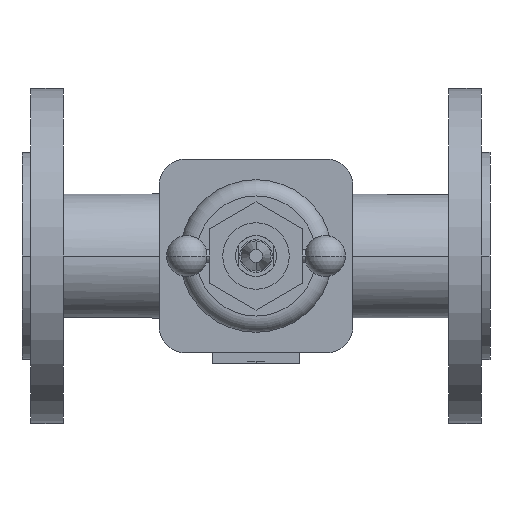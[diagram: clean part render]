
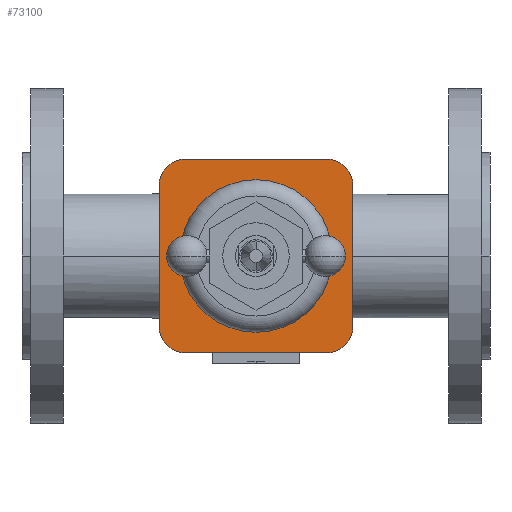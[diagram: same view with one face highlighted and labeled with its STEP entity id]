
A CAD part, front view. The second image highlights one B-rep face of the part: STEP entity #73100.
In plain terms, the highlighted planar face has unit normal (0, -1, 0).
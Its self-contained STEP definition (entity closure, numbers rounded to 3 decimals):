
#14210=CARTESIAN_POINT('',(152.5,-87.,0.));
#14220=VERTEX_POINT('',#14210);
#14250=CARTESIAN_POINT('',(115.,-87.,0.));
#14260=DIRECTION('',(0.,-1.,0.));
#14270=DIRECTION('',(-1.,0.,0.));
#14280=AXIS2_PLACEMENT_3D('',#14250,#14260,#14270);
#14290=CIRCLE('',#14280,37.5);
#14300=CARTESIAN_POINT('',(77.5,-87.,0.));
#14310=VERTEX_POINT('',#14300);
#14320=EDGE_CURVE('',#14310,#14220,#14290,.T.);
#42150=CARTESIAN_POINT('',(67.352,-87.,34.648));
#42160=VERTEX_POINT('',#42150);
#42190=CARTESIAN_POINT('',(67.352,-87.,-17.324));
#42200=DIRECTION('',(0.,0.,-1.));
#42210=VECTOR('',#42200,1.);
#42220=LINE('',#42190,#42210);
#42230=CARTESIAN_POINT('',(67.352,-87.,-34.648));
#42240=VERTEX_POINT('',#42230);
#42250=EDGE_CURVE('',#42160,#42240,#42220,.T.);
#46330=CARTESIAN_POINT('',(80.352,-87.,-47.648));
#46340=VERTEX_POINT('',#46330);
#46370=CARTESIAN_POINT('',(107.199,-87.,-47.648));
#46380=DIRECTION('',(1.,0.,0.));
#46390=VECTOR('',#46380,1.);
#46400=LINE('',#46370,#46390);
#46410=CARTESIAN_POINT('',(149.648,-87.,-47.648));
#46420=VERTEX_POINT('',#46410);
#46430=EDGE_CURVE('',#46340,#46420,#46400,.T.);
#47180=CARTESIAN_POINT('',(80.352,-87.,47.648));
#47190=VERTEX_POINT('',#47180);
#47240=CARTESIAN_POINT('',(80.352,-87.,34.648));
#47250=DIRECTION('',(0.,-1.,0.));
#47260=DIRECTION('',(-1.,0.,0.));
#47270=AXIS2_PLACEMENT_3D('',#47240,#47250,#47260);
#47280=CIRCLE('',#47270,13.);
#47290=EDGE_CURVE('',#47190,#42160,#47280,.T.);
#47550=CARTESIAN_POINT('',(149.648,-87.,-34.648));
#47560=DIRECTION('',(0.,-1.,0.));
#47570=DIRECTION('',(1.,0.,0.));
#47580=AXIS2_PLACEMENT_3D('',#47550,#47560,#47570);
#47590=CIRCLE('',#47580,13.);
#47600=CARTESIAN_POINT('',(162.648,-87.,
-34.648));
#47610=VERTEX_POINT('',#47600);
#47620=EDGE_CURVE('',#46420,#47610,#47590,.T.);
#47980=CARTESIAN_POINT('',(162.648,-87.,
34.648));
#47990=VERTEX_POINT('',#47980);
#48040=CARTESIAN_POINT('',(149.648,-87.,34.648));
#48050=DIRECTION('',(0.,-1.,0.));
#48060=DIRECTION('',(0.,0.,1.));
#48070=AXIS2_PLACEMENT_3D('',#48040,#48050,#48060);
#48080=CIRCLE('',#48070,13.);
#48090=CARTESIAN_POINT('',(149.648,-87.,47.648));
#48100=VERTEX_POINT('',#48090);
#48110=EDGE_CURVE('',#47990,#48100,#48080,.T.);
#61190=CARTESIAN_POINT('',(162.648,-87.,
17.324));
#61200=DIRECTION('',(0.,0.,1.));
#61210=VECTOR('',#61200,1.);
#61220=LINE('',#61190,#61210);
#61230=EDGE_CURVE('',#47610,#47990,#61220,.T.);
#71370=CARTESIAN_POINT('',(72.551,-87.,47.648));
#71380=DIRECTION('',(-1.,0.,0.));
#71390=VECTOR('',#71380,1.);
#71400=LINE('',#71370,#71390);
#71410=EDGE_CURVE('',#48100,#47190,#71400,.T.);
#72840=CARTESIAN_POINT('',(64.75,-87.,0.));
#72850=DIRECTION('',(0.,-1.,0.));
#72860=DIRECTION('',(-1.,0.,0.));
#72870=AXIS2_PLACEMENT_3D('',#72840,#72850,#72860);
#72880=PLANE('',#72870);
#72890=ORIENTED_EDGE('',*,*,#47290,.T.);
#72900=ORIENTED_EDGE('',*,*,#71410,.T.);
#72910=ORIENTED_EDGE('',*,*,#48110,.T.);
#72920=ORIENTED_EDGE('',*,*,#61230,.T.);
#72930=ORIENTED_EDGE('',*,*,#47620,.T.);
#72940=ORIENTED_EDGE('',*,*,#46430,.T.);
#72950=CARTESIAN_POINT('',(80.352,-87.,-34.648));
#72960=DIRECTION('',(0.,-1.,0.));
#72970=DIRECTION('',(0.,0.,-1.));
#72980=AXIS2_PLACEMENT_3D('',#72950,#72960,#72970);
#72990=CIRCLE('',#72980,13.);
#73000=EDGE_CURVE('',#42240,#46340,#72990,.T.);
#73010=ORIENTED_EDGE('',*,*,#73000,.T.);
#73020=ORIENTED_EDGE('',*,*,#42250,.T.);
#73030=EDGE_LOOP('',(#73020,#73010,#72940,#72930,#72920,#72910,#72900,
#72890));
#73040=FACE_OUTER_BOUND('',#73030,.T.);
#73050=EDGE_CURVE('',#14220,#14310,#14290,.T.);
#73060=ORIENTED_EDGE('',*,*,#73050,.F.);
#73070=ORIENTED_EDGE('',*,*,#14320,.F.);
#73080=EDGE_LOOP('',(#73070,#73060));
#73090=FACE_BOUND('',#73080,.T.);
#73100=ADVANCED_FACE('',(#73040,#73090),#72880,.T.);
